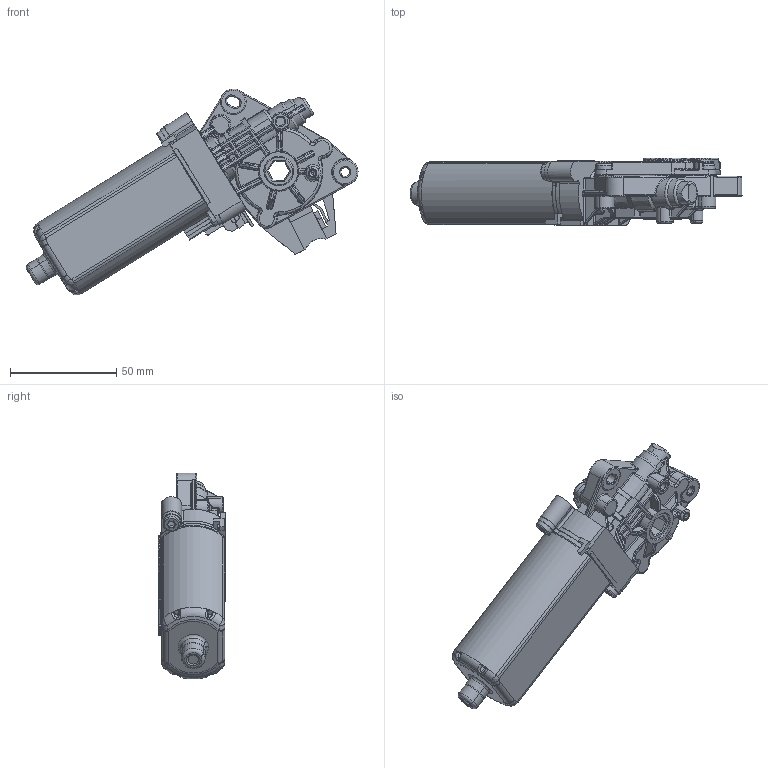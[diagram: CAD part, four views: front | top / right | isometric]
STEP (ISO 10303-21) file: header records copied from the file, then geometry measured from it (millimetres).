
FILE_DESCRIPTION(('CATIA V5 STEP Exchange'),'2;1');
FILE_NAME('X:\_sonja\0390203386.stp','2010-09-07T12:47:43+00:00',('none'),('none'),'CATIA Version 5 Release 16 (IN-10)','CATIA V5 STEP AP214','none');
FILE_SCHEMA(('AUTOMOTIVE_DESIGN { 1 0 10303 214 1 1 1 1 }'));
Length unit declared in the file: millimetre
Products named in the file (1): 0390203386_AllCATPart
Bounding box: 156.06 x 31.75 x 96.83 mm (x, y, z)
Volume: 148985.2 mm3; surface area: 35456.9 mm2
Topology: 2 solids, 2 shells, 1899 faces, 4922 edges, 2863 vertices
Faces by surface type: cylinder 611, plane 447, torus 333, bspline 278, sphere 183, cone 47
Entity records: 78012 total; most frequent: CARTESIAN_POINT 35720, ORIENTED_EDGE 9508, DIRECTION 5822, EDGE_CURVE 4754, VERTEX_POINT 2863, AXIS2_PLACEMENT_3D 2716, EDGE_LOOP 1929, ADVANCED_FACE 1899
